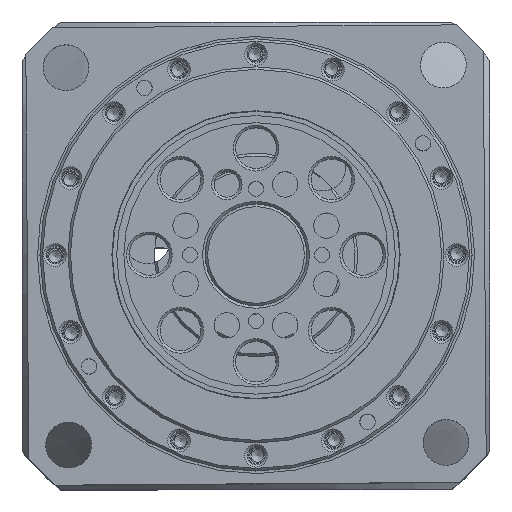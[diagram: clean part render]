
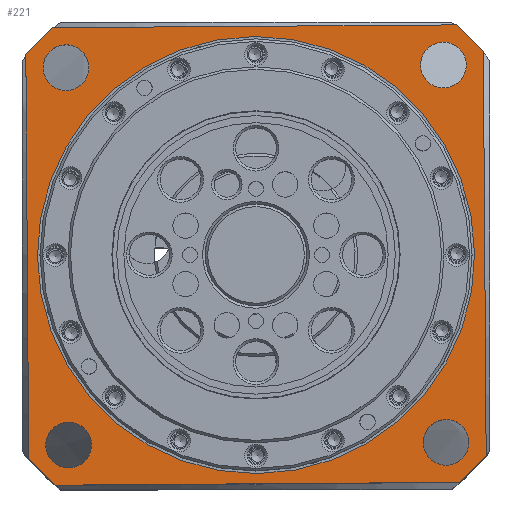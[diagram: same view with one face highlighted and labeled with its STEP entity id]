
A CAD part, top view. The second image highlights one B-rep face of the part: STEP entity #221.
In plain terms, the highlighted planar face has unit normal (0, 0, 1).
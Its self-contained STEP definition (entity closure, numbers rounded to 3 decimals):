
#24 = ORIENTED_EDGE ( 'NONE', *, *, #15482, .F. ) ;
#30 = EDGE_CURVE ( 'NONE', #13957, #13957, #2056, .T. ) ;
#58 = ORIENTED_EDGE ( 'NONE', *, *, #15484, .F. ) ;
#216 = EDGE_CURVE ( 'NONE', #13917, #13917, #2485, .T. ) ;
#221 = ADVANCED_FACE ( 'NONE', ( #2486, #2480, #2434, #2479, #2495, #2472 ), #2464, .F. ) ;
#291 = EDGE_LOOP ( 'NONE', ( #15465 ) ) ;
#1020 = EDGE_LOOP ( 'NONE', ( #24 ) ) ;
#1051 = EDGE_LOOP ( 'NONE', ( #58 ) ) ;
#1105 = ORIENTED_EDGE ( 'NONE', *, *, #1113, .F. ) ;
#1107 = EDGE_CURVE ( 'NONE', #15442, #15406, #6432, .T. ) ;
#1111 = ORIENTED_EDGE ( 'NONE', *, *, #15454, .F. ) ;
#1112 = ORIENTED_EDGE ( 'NONE', *, *, #1107, .F. ) ;
#1113 = EDGE_CURVE ( 'NONE', #15456, #15349, #6469, .T. ) ;
#1115 = ORIENTED_EDGE ( 'NONE', *, *, #15450, .F. ) ;
#1116 = EDGE_CURVE ( 'NONE', #15405, #15363, #6462, .T. ) ;
#1118 = ORIENTED_EDGE ( 'NONE', *, *, #15467, .F. ) ;
#1841 = EDGE_CURVE ( 'NONE', #14287, #14287, #7816, .T. ) ;
#2052 = DIRECTION ( 'NONE',  ( 1., 0.007, 0. ) ) ;
#2053 = DIRECTION ( 'NONE',  ( 0., 0., 1. ) ) ;
#2054 = CARTESIAN_POINT ( 'NONE',  ( -37.382, 36.862, -21.307 ) ) ;
#2055 = AXIS2_PLACEMENT_3D ( 'NONE', #2054, #2053, #2052 ) ;
#2056 = CIRCLE ( 'NONE', #2055, 4.5 ) ;
#2434 = FACE_BOUND ( 'NONE', #15470, .T. ) ;
#2464 = PLANE ( 'NONE',  #2489 ) ;
#2467 = DIRECTION ( 'NONE',  ( -1., -0.007, 0. ) ) ;
#2468 = DIRECTION ( 'NONE',  ( 0., 0., -1. ) ) ;
#2472 = FACE_OUTER_BOUND ( 'NONE', #15477, .T. ) ;
#2473 = CARTESIAN_POINT ( 'NONE',  ( 0., 0., -21.307 ) ) ;
#2479 = FACE_BOUND ( 'NONE', #15471, .T. ) ;
#2480 = FACE_BOUND ( 'NONE', #291, .T. ) ;
#2481 = DIRECTION ( 'NONE',  ( 1., 0.007, 0. ) ) ;
#2482 = DIRECTION ( 'NONE',  ( 0., 0., 1. ) ) ;
#2483 = CARTESIAN_POINT ( 'NONE',  ( 36.862, 37.382, -21.307 ) ) ;
#2484 = AXIS2_PLACEMENT_3D ( 'NONE', #2483, #2482, #2481 ) ;
#2485 = CIRCLE ( 'NONE', #2484, 4.5 ) ;
#2486 = FACE_BOUND ( 'NONE', #1020, .T. ) ;
#2489 = AXIS2_PLACEMENT_3D ( 'NONE', #2473, #2468, #2467 ) ;
#2495 = FACE_BOUND ( 'NONE', #1051, .T. ) ;
#2808 = ORIENTED_EDGE ( 'NONE', *, *, #1841, .F. ) ;
#6429 = DIRECTION ( 'NONE',  ( -1., -0.007, 0. ) ) ;
#6430 = DIRECTION ( 'NONE',  ( 0., 0., -1. ) ) ;
#6431 = CARTESIAN_POINT ( 'NONE',  ( 0., 0., -21.307 ) ) ;
#6432 = CIRCLE ( 'NONE', #6434, 60. ) ;
#6434 = AXIS2_PLACEMENT_3D ( 'NONE', #6431, #6430, #6429 ) ;
#6449 = DIRECTION ( 'NONE',  ( -1., -0.007, 0. ) ) ;
#6450 = DIRECTION ( 'NONE',  ( 0., 0., -1. ) ) ;
#6451 = CARTESIAN_POINT ( 'NONE',  ( 0., 0., -21.307 ) ) ;
#6452 = AXIS2_PLACEMENT_3D ( 'NONE', #6451, #6450, #6449 ) ;
#6457 = DIRECTION ( 'NONE',  ( -1., -0.007, 0. ) ) ;
#6458 = DIRECTION ( 'NONE',  ( 0., 0., -1. ) ) ;
#6459 = CARTESIAN_POINT ( 'NONE',  ( 0., 0., -21.307 ) ) ;
#6460 = AXIS2_PLACEMENT_3D ( 'NONE', #6459, #6458, #6457 ) ;
#6462 = CIRCLE ( 'NONE', #6452, 60. ) ;
#6469 = CIRCLE ( 'NONE', #6460, 60. ) ;
#7813 = DIRECTION ( 'NONE',  ( 1., 0.007, 0. ) ) ;
#7814 = DIRECTION ( 'NONE',  ( 0., 0., 1. ) ) ;
#7815 = CARTESIAN_POINT ( 'NONE',  ( 37.382, -36.862, -21.307 ) ) ;
#7816 = CIRCLE ( 'NONE', #7818, 4.5 ) ;
#7818 = AXIS2_PLACEMENT_3D ( 'NONE', #7815, #7814, #7813 ) ;
#10614 = ORIENTED_EDGE ( 'NONE', *, *, #15459, .F. ) ;
#10725 = ORIENTED_EDGE ( 'NONE', *, *, #1116, .F. ) ;
#12992 = CARTESIAN_POINT ( 'NONE',  ( 40., -44.721, -21.307 ) ) ;
#13078 = CARTESIAN_POINT ( 'NONE',  ( -44.721, -40., -21.307 ) ) ;
#13101 = DIRECTION ( 'NONE',  ( -0.007, 1., 0. ) ) ;
#13102 = VECTOR ( 'NONE', #13101, 1000. ) ;
#13103 = CARTESIAN_POINT ( 'NONE',  ( -45.314, 44.684, -21.307 ) ) ;
#13110 = LINE ( 'NONE', #13103, #13102 ) ;
#13157 = CARTESIAN_POINT ( 'NONE',  ( -39.37, -45.277, -21.307 ) ) ;
#13160 = CARTESIAN_POINT ( 'NONE',  ( -45.277, 39.37, -21.307 ) ) ;
#13172 = CARTESIAN_POINT ( 'NONE',  ( 44.721, 40., -21.307 ) ) ;
#13198 = CARTESIAN_POINT ( 'NONE',  ( -40., 44.721, -21.307 ) ) ;
#13211 = LINE ( 'NONE', #13271, #13270 ) ;
#13236 = CARTESIAN_POINT ( 'NONE',  ( 39.37, 45.277, -21.307 ) ) ;
#13239 = CARTESIAN_POINT ( 'NONE',  ( 45.314, -44.684, -21.307 ) ) ;
#13240 = LINE ( 'NONE', #13239, #13296 ) ;
#13248 = DIRECTION ( 'NONE',  ( -1., -0.007, 0. ) ) ;
#13249 = DIRECTION ( 'NONE',  ( 0., 0., -1. ) ) ;
#13250 = CARTESIAN_POINT ( 'NONE',  ( 0., 0., -21.307 ) ) ;
#13251 = AXIS2_PLACEMENT_3D ( 'NONE', #13250, #13249, #13248 ) ;
#13260 = CIRCLE ( 'NONE', #13251, 60. ) ;
#13262 = CARTESIAN_POINT ( 'NONE',  ( 45.277, -39.37, -21.307 ) ) ;
#13263 = DIRECTION ( 'NONE',  ( 0.007, -1., 0. ) ) ;
#13265 = VECTOR ( 'NONE', #13263, 1000. ) ;
#13266 = CARTESIAN_POINT ( 'NONE',  ( 44.684, 45.314, -21.307 ) ) ;
#13269 = DIRECTION ( 'NONE',  ( 1., 0.007, 0. ) ) ;
#13270 = VECTOR ( 'NONE', #13269, 1000. ) ;
#13271 = CARTESIAN_POINT ( 'NONE',  ( 44.684, 45.314, -21.307 ) ) ;
#13272 = LINE ( 'NONE', #13266, #13265 ) ;
#13295 = DIRECTION ( 'NONE',  ( -1., -0.007, 0. ) ) ;
#13296 = VECTOR ( 'NONE', #13295, 1000. ) ;
#13312 = DIRECTION ( 'NONE',  ( -1., -0.007, 0. ) ) ;
#13313 = DIRECTION ( 'NONE',  ( 0., 0., 1. ) ) ;
#13314 = CARTESIAN_POINT ( 'NONE',  ( 0., 0., -21.307 ) ) ;
#13315 = CIRCLE ( 'NONE', #13329, 43. ) ;
#13318 = DIRECTION ( 'NONE',  ( 1., 0.007, 0. ) ) ;
#13320 = DIRECTION ( 'NONE',  ( 0., 0., 1. ) ) ;
#13321 = CARTESIAN_POINT ( 'NONE',  ( -36.862, -37.382, -21.307 ) ) ;
#13322 = CIRCLE ( 'NONE', #13330, 4.5 ) ;
#13329 = AXIS2_PLACEMENT_3D ( 'NONE', #13314, #13313, #13312 ) ;
#13330 = AXIS2_PLACEMENT_3D ( 'NONE', #13321, #13320, #13318 ) ;
#13917 = VERTEX_POINT ( 'NONE', #14019 ) ;
#13955 = CARTESIAN_POINT ( 'NONE',  ( -32.882, 36.894, -21.307 ) ) ;
#13957 = VERTEX_POINT ( 'NONE', #13955 ) ;
#14019 = CARTESIAN_POINT ( 'NONE',  ( 41.362, 37.413, -21.307 ) ) ;
#14284 = CARTESIAN_POINT ( 'NONE',  ( 41.882, -36.831, -21.307 ) ) ;
#14287 = VERTEX_POINT ( 'NONE', #14284 ) ;
#14847 = CARTESIAN_POINT ( 'NONE',  ( -42.999, -0.301, -21.307 ) ) ;
#14849 = CARTESIAN_POINT ( 'NONE',  ( -32.363, -37.35, -21.307 ) ) ;
#14850 = VERTEX_POINT ( 'NONE', #14847 ) ;
#14852 = VERTEX_POINT ( 'NONE', #14849 ) ;
#15299 = ORIENTED_EDGE ( 'NONE', *, *, #15374, .F. ) ;
#15349 = VERTEX_POINT ( 'NONE', #12992 ) ;
#15363 = VERTEX_POINT ( 'NONE', #13078 ) ;
#15374 = EDGE_CURVE ( 'NONE', #15363, #15433, #13110, .T. ) ;
#15405 = VERTEX_POINT ( 'NONE', #13157 ) ;
#15406 = VERTEX_POINT ( 'NONE', #13172 ) ;
#15431 = VERTEX_POINT ( 'NONE', #13198 ) ;
#15433 = VERTEX_POINT ( 'NONE', #13160 ) ;
#15438 = ORIENTED_EDGE ( 'NONE', *, *, #216, .F. ) ;
#15442 = VERTEX_POINT ( 'NONE', #13236 ) ;
#15450 = EDGE_CURVE ( 'NONE', #15431, #15442, #13211, .T. ) ;
#15454 = EDGE_CURVE ( 'NONE', #15406, #15456, #13272, .T. ) ;
#15456 = VERTEX_POINT ( 'NONE', #13262 ) ;
#15459 = EDGE_CURVE ( 'NONE', #15433, #15431, #13260, .T. ) ;
#15465 = ORIENTED_EDGE ( 'NONE', *, *, #30, .F. ) ;
#15467 = EDGE_CURVE ( 'NONE', #15349, #15405, #13240, .T. ) ;
#15470 = EDGE_LOOP ( 'NONE', ( #15438 ) ) ;
#15471 = EDGE_LOOP ( 'NONE', ( #2808 ) ) ;
#15477 = EDGE_LOOP ( 'NONE', ( #10614, #15299, #10725, #1118, #1105, #1111, #1112, #1115 ) ) ;
#15482 = EDGE_CURVE ( 'NONE', #14852, #14852, #13322, .T. ) ;
#15484 = EDGE_CURVE ( 'NONE', #14850, #14850, #13315, .T. ) ;
